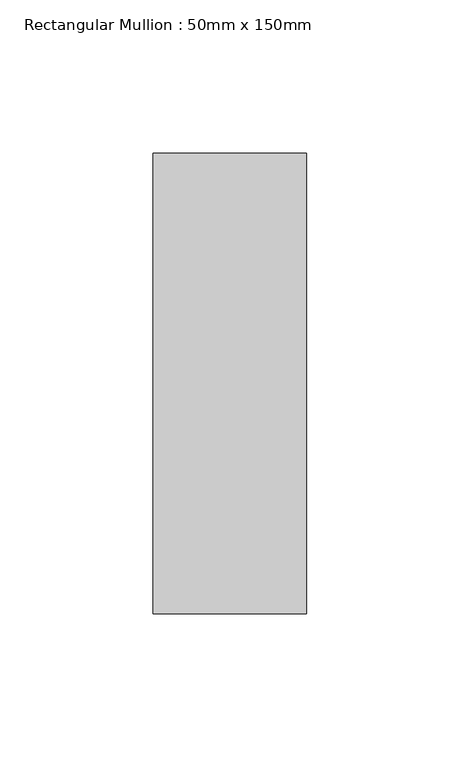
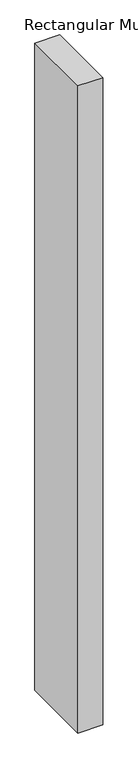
"""IFC4 building model written with IfcOpenShell, lengths in millimetres: member geometry, Rectangular Mullion : 50mm x 150mm."""

from ifc_helpers import new_model, si_unit, frame, origin, place, context, project, spatial, polyline, outline, extrude, source, transform, mapped, element, save


def rectangular_mullion_50mm_x_150mm_c839a2ff(model_context):
    return source(origin(), model_context, "Body", "SweptSolid", [
        extrude(outline(polyline([(0.0, 75.0), (0.0, -75.0), (-50.0, -75.0), (-50.0, 75.0), (0.0, 75.0)])), frame((0.0, 0.0, -1377.3178267), z_axis=(0.0, 0.0, 1.0), x_axis=(1.0, 0.0, 0.0)), (0.0, 0.0, 1.0), 1377.3178267),
    ])


if __name__ == "__main__":
    model = new_model("IFC4")
    model_context = context("Model", 3, world=origin())
    ifc_project = project(units=[si_unit("LENGTHUNIT", "METRE", prefix="MILLI")], contexts=[model_context])
    site = spatial("IfcSite", under=ifc_project)
    building = spatial("IfcBuilding", under=site)
    placement = place(None, origin())
    rectangular_mullion_50mm_x_150mm_shape = rectangular_mullion_50mm_x_150mm_c839a2ff(model_context)
    element("IfcMember", 1, ObjectType="Rectangular Mullion : 50mm x 150mm", at=placement, inside=building, context=model_context, shape_type="MappedRepresentation", body=[
        mapped(rectangular_mullion_50mm_x_150mm_shape, transform((0.0, 0.0, 0.0), x_axis=(1.0, 0.0, 0.0), y_axis=(0.0, 1.0, 0.0), z_axis=(0.0, 0.0, 1.0))),
    ])
    save(model, "model.ifc")
